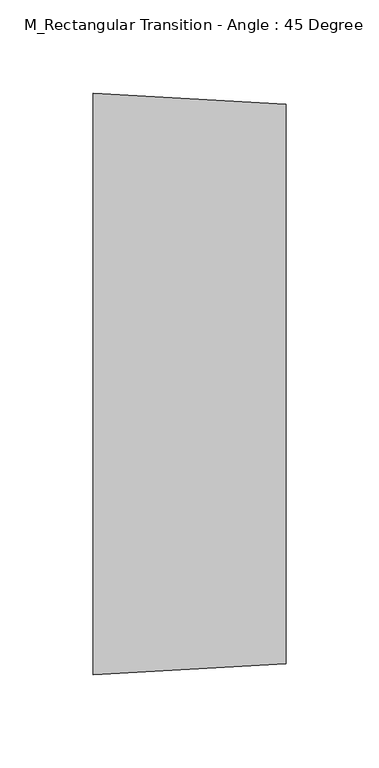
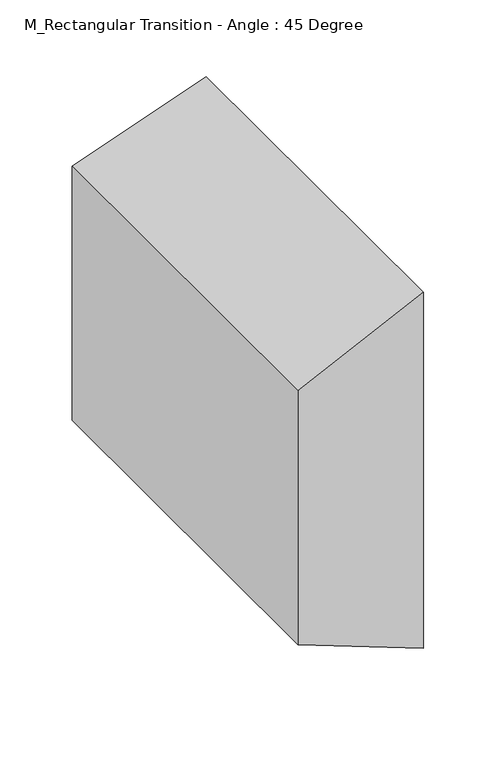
"""IFC4 building model written with IfcOpenShell, lengths in millimetres: duct fitting geometry, M_Rectangular Transition - Angle : 45 Degree."""

from ifc_helpers import new_model, si_unit, origin, place, context, project, spatial, faceted_brep, source, transform, mapped, element, save


def m_rectangular_transition_angle_45_degree_d4666cfa(model_context):
    return source(origin(), model_context, "Body", "Brep", [
        faceted_brep([(103.4792288, -150.0, 150.0), (103.4792288, -150.0, -150.0), (103.4792288, 150.0, -150.0), (103.4792288, 150.0, 150.0), (0.0, -155.9375, 107.1375), (0.0, 155.9375, 107.1375), (0.0, 155.9375, -107.1375), (0.0, -155.9375, -107.1375)], [[[0, 1, 2, 3]], [[4, 5, 6, 7]], [[4, 7, 1, 0]], [[7, 6, 2, 1]], [[6, 5, 3, 2]], [[5, 4, 0, 3]]]),
    ])


if __name__ == "__main__":
    model = new_model("IFC4")
    model_context = context("Model", 3, world=origin())
    ifc_project = project(units=[si_unit("LENGTHUNIT", "METRE", prefix="MILLI")], contexts=[model_context])
    site = spatial("IfcSite", under=ifc_project)
    building = spatial("IfcBuilding", under=site)
    placement = place(None, origin())
    m_rectangular_transition_angle_45_degree_shape = m_rectangular_transition_angle_45_degree_d4666cfa(model_context)
    element("IfcDuctFitting", 1, ObjectType="M_Rectangular Transition - Angle : 45 Degree", at=placement, inside=building, context=model_context, shape_type="MappedRepresentation", body=[
        mapped(m_rectangular_transition_angle_45_degree_shape, transform((0.0, 0.0, 0.0), x_axis=(1.0, 0.0, 0.0), y_axis=(0.0, 1.0, 0.0), z_axis=(0.0, 0.0, 1.0))),
    ])
    save(model, "model.ifc")
